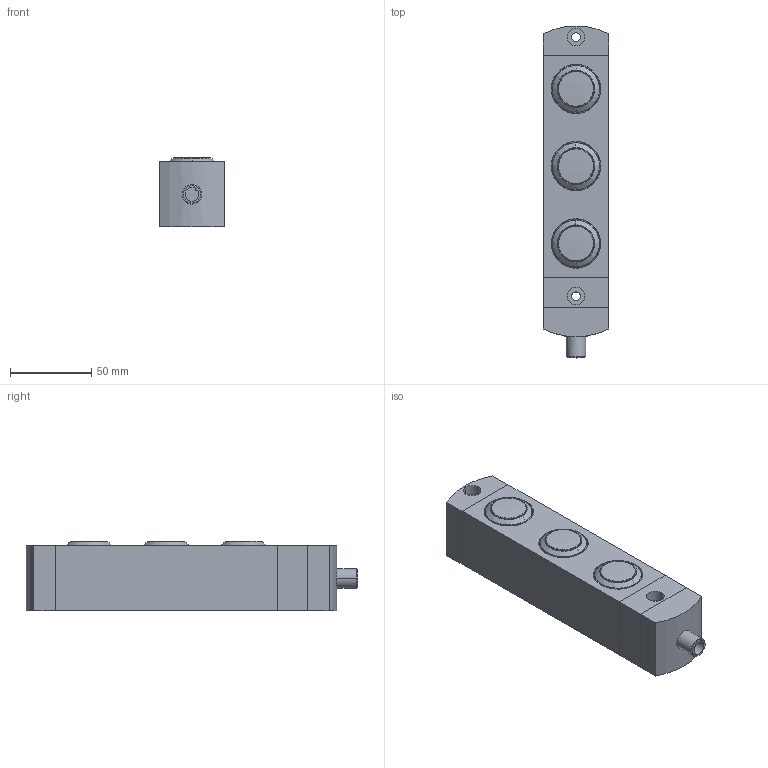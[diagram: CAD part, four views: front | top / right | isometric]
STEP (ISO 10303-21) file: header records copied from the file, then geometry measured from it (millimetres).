
FILE_DESCRIPTION (( 'STEP AP203' ), '1' );
FILE_NAME ('ZF_STEP_BN_AC3EA08.STEP', '2025-11-14T08:58:52', ( '' ), ( '' ), 'SwSTEP 2.0', 'SolidWorks 2023', '' );
FILE_SCHEMA (( 'CONFIG_CONTROL_DESIGN' ));
Length unit declared in the file: millimetre
Products named in the file (8): Pulsante rasato_3DWeb_27121 bianco; ZF_STEP_VN_NG-AC27121; Pizzato_11144; Connetttore M12 assiale; Pizzato_11135; Pizzato_3dispositivi; Connetttore M12 assiale_M12 assiale; ZF_STEP_BN_AC3EA08
Assembly tree (9 placements, depth 3):
  ZF_STEP_BN_AC3EA08
    Pizzato_11144
    Pizzato_11135
    Pizzato_3dispositivi
    Connetttore M12 assiale
      Connetttore M12 assiale_M12 assiale
    ZF_STEP_VN_NG-AC27121  x3
      Pulsante rasato_3DWeb_27121 bianco
Bounding box: 40 x 204.2 x 42.94 mm (x, y, z)
Volume: 307266.1 mm3; surface area: 55979.6 mm2
Topology: 7 solids, 7 shells, 263 faces, 633 edges, 424 vertices
Faces by surface type: plane 100, cylinder 88, bspline 39, cone 36
Entity records: 5563 total; most frequent: CARTESIAN_POINT 1289, DIRECTION 754, ORIENTED_EDGE 670, EDGE_CURVE 335, AXIS2_PLACEMENT_3D 293, VERTEX_POINT 224, EDGE_LOOP 169, VECTOR 168
